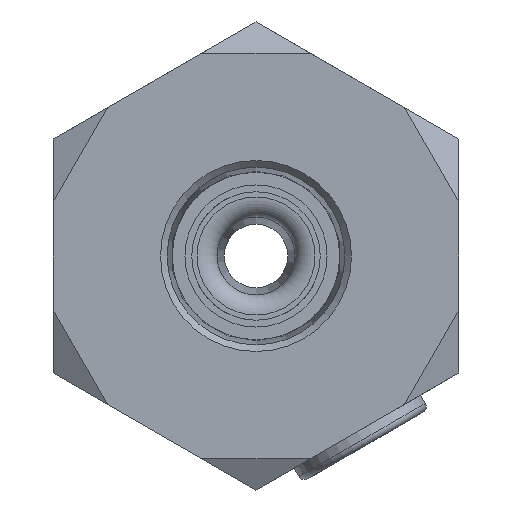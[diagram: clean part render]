
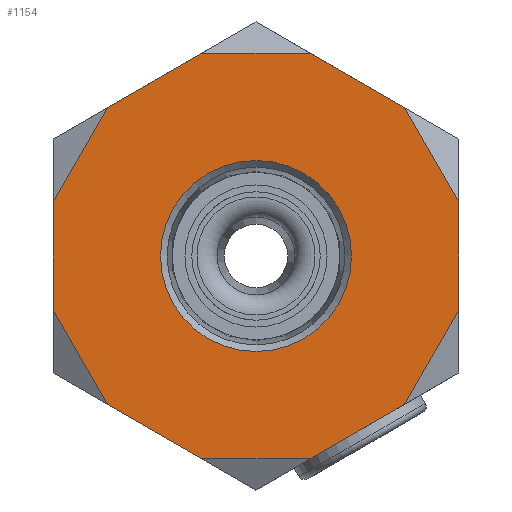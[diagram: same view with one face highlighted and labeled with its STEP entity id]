
A CAD part, left-side view. The second image highlights one B-rep face of the part: STEP entity #1154.
In plain terms, the highlighted planar face has unit normal (-1, 0, 0).
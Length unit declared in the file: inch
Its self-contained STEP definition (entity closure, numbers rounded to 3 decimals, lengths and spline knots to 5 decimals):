
#9 = VECTOR ( 'NONE', #1873, 39.37008 ) ;
#12 = VECTOR ( 'NONE', #1640, 39.37008 ) ;
#13 = ORIENTED_EDGE ( 'NONE', *, *, #1474, .T. ) ;
#14 = DIRECTION ( 'NONE',  ( 0., -0.5, 0.866 ) ) ;
#20 = VERTEX_POINT ( 'NONE', #1760 ) ;
#30 = CARTESIAN_POINT ( 'NONE',  ( 0., 0., -0.29464 ) ) ;
#57 = FACE_OUTER_BOUND ( 'NONE', #813, .T. ) ;
#71 = CARTESIAN_POINT ( 'NONE',  ( 0., 0., 0. ) ) ;
#125 = CARTESIAN_POINT ( 'NONE',  ( 0., -0.625, 0.36084 ) ) ;
#128 = VECTOR ( 'NONE', #544, 39.37008 ) ;
#145 = VERTEX_POINT ( 'NONE', #1623 ) ;
#152 = CARTESIAN_POINT ( 'NONE',  ( 0., 0., -0.625 ) ) ;
#158 = DIRECTION ( 'NONE',  ( 0., 0.866, -0.5 ) ) ;
#163 = CARTESIAN_POINT ( 'NONE',  ( 0., 0.625, 0.36084 ) ) ;
#169 = VERTEX_POINT ( 'NONE', #979 ) ;
#216 = CARTESIAN_POINT ( 'NONE',  ( 0., 0., -0.72169 ) ) ;
#266 = VERTEX_POINT ( 'NONE', #1682 ) ;
#274 = EDGE_CURVE ( 'NONE', #720, #1895, #1125, .T. ) ;
#290 = CARTESIAN_POINT ( 'NONE',  ( 0., 0.45753, -0.45753 ) ) ;
#371 = LINE ( 'NONE', #1305, #1045 ) ;
#383 = DIRECTION ( 'NONE',  ( 0., 0.5, -0.866 ) ) ;
#386 = AXIS2_PLACEMENT_3D ( 'NONE', #716, #1888, #1204 ) ;
#394 = VERTEX_POINT ( 'NONE', #533 ) ;
#409 = VERTEX_POINT ( 'NONE', #876 ) ;
#477 = LINE ( 'NONE', #1562, #1473 ) ;
#527 = LINE ( 'NONE', #163, #128 ) ;
#532 = LINE ( 'NONE', #1362, #12 ) ;
#533 = CARTESIAN_POINT ( 'NONE',  ( 0., 0.45753, 0.45753 ) ) ;
#544 = DIRECTION ( 'NONE',  ( 0., -0.866, 0.5 ) ) ;
#562 = LINE ( 'NONE', #1564, #1265 ) ;
#593 = ORIENTED_EDGE ( 'NONE', *, *, #2117, .F. ) ;
#629 = VERTEX_POINT ( 'NONE', #30 ) ;
#639 = FACE_BOUND ( 'NONE', #2120, .T. ) ;
#649 = VERTEX_POINT ( 'NONE', #1291 ) ;
#678 = CARTESIAN_POINT ( 'NONE',  ( 0., -0.16747, -0.625 ) ) ;
#680 = LINE ( 'NONE', #1829, #2134 ) ;
#716 = CARTESIAN_POINT ( 'NONE',  ( 0., 0., 0. ) ) ;
#719 = EDGE_CURVE ( 'NONE', #145, #794, #2142, .T. ) ;
#720 = VERTEX_POINT ( 'NONE', #1324 ) ;
#742 = EDGE_CURVE ( 'NONE', #409, #169, #867, .T. ) ;
#753 = VERTEX_POINT ( 'NONE', #1513 ) ;
#786 = LINE ( 'NONE', #1052, #9 ) ;
#794 = VERTEX_POINT ( 'NONE', #678 ) ;
#813 = EDGE_LOOP ( 'NONE', ( #1105, #1649, #1302, #1940, #593, #13, #2026, #1520, #1234, #1299, #814, #1498 ) ) ;
#814 = ORIENTED_EDGE ( 'NONE', *, *, #1756, .F. ) ;
#826 = EDGE_CURVE ( 'NONE', #720, #1006, #532, .T. ) ;
#837 = VECTOR ( 'NONE', #1354, 39.37008 ) ;
#867 = LINE ( 'NONE', #125, #837 ) ;
#876 = CARTESIAN_POINT ( 'NONE',  ( 0., -0.625, 0.16747 ) ) ;
#888 = EDGE_CURVE ( 'NONE', #266, #753, #1856, .T. ) ;
#940 = CARTESIAN_POINT ( 'NONE',  ( 0., 0.625, 0.16747 ) ) ;
#967 = VECTOR ( 'NONE', #1546, 39.37008 ) ;
#978 = DIRECTION ( 'NONE',  ( 0., -1., 0. ) ) ;
#979 = CARTESIAN_POINT ( 'NONE',  ( 0., -0.625, -0.16747 ) ) ;
#1006 = VERTEX_POINT ( 'NONE', #290 ) ;
#1045 = VECTOR ( 'NONE', #14, 39.37008 ) ;
#1052 = CARTESIAN_POINT ( 'NONE',  ( 0., 0., 0.625 ) ) ;
#1105 = ORIENTED_EDGE ( 'NONE', *, *, #274, .F. ) ;
#1125 = LINE ( 'NONE', #1870, #967 ) ;
#1148 = EDGE_CURVE ( 'NONE', #394, #1895, #477, .T. ) ;
#1154 = ADVANCED_FACE ( 'NONE', ( #639, #57 ), #1719, .F. ) ;
#1178 = EDGE_CURVE ( 'NONE', #266, #649, #786, .T. ) ;
#1179 = EDGE_CURVE ( 'NONE', #629, #629, #2009, .T. ) ;
#1204 = DIRECTION ( 'NONE',  ( 0., 0., -1. ) ) ;
#1234 = ORIENTED_EDGE ( 'NONE', *, *, #888, .F. ) ;
#1265 = VECTOR ( 'NONE', #1897, 39.37008 ) ;
#1291 = CARTESIAN_POINT ( 'NONE',  ( 0., 0.16747, 0.625 ) ) ;
#1299 = ORIENTED_EDGE ( 'NONE', *, *, #1178, .T. ) ;
#1302 = ORIENTED_EDGE ( 'NONE', *, *, #1464, .F. ) ;
#1305 = CARTESIAN_POINT ( 'NONE',  ( 0., -0.54127, -0.3125 ) ) ;
#1324 = CARTESIAN_POINT ( 'NONE',  ( 0., 0.625, -0.16747 ) ) ;
#1354 = DIRECTION ( 'NONE',  ( 0., 0., -1. ) ) ;
#1362 = CARTESIAN_POINT ( 'NONE',  ( 0., 0.54127, -0.3125 ) ) ;
#1403 = DIRECTION ( 'NONE',  ( 1., 0., 0. ) ) ;
#1411 = DIRECTION ( 'NONE',  ( 0., 0.866, 0.5 ) ) ;
#1427 = VECTOR ( 'NONE', #1840, 39.37008 ) ;
#1442 = LINE ( 'NONE', #216, #1580 ) ;
#1451 = EDGE_CURVE ( 'NONE', #409, #753, #562, .T. ) ;
#1464 = EDGE_CURVE ( 'NONE', #145, #1006, #1442, .T. ) ;
#1470 = AXIS2_PLACEMENT_3D ( 'NONE', #71, #1403, #1570 ) ;
#1473 = VECTOR ( 'NONE', #383, 39.37008 ) ;
#1474 = EDGE_CURVE ( 'NONE', #20, #169, #371, .T. ) ;
#1498 = ORIENTED_EDGE ( 'NONE', *, *, #1148, .T. ) ;
#1513 = CARTESIAN_POINT ( 'NONE',  ( 0., -0.45753, 0.45753 ) ) ;
#1520 = ORIENTED_EDGE ( 'NONE', *, *, #1451, .T. ) ;
#1546 = DIRECTION ( 'NONE',  ( 0., 0., 1. ) ) ;
#1562 = CARTESIAN_POINT ( 'NONE',  ( 0., 0.54127, 0.3125 ) ) ;
#1564 = CARTESIAN_POINT ( 'NONE',  ( 0., -0.54127, 0.3125 ) ) ;
#1570 = DIRECTION ( 'NONE',  ( 0., 0., -1. ) ) ;
#1580 = VECTOR ( 'NONE', #1411, 39.37008 ) ;
#1623 = CARTESIAN_POINT ( 'NONE',  ( 0., 0.16747, -0.625 ) ) ;
#1640 = DIRECTION ( 'NONE',  ( 0., -0.5, -0.866 ) ) ;
#1649 = ORIENTED_EDGE ( 'NONE', *, *, #826, .T. ) ;
#1682 = CARTESIAN_POINT ( 'NONE',  ( 0., -0.16747, 0.625 ) ) ;
#1719 = PLANE ( 'NONE',  #386 ) ;
#1724 = CARTESIAN_POINT ( 'NONE',  ( 0., 0., 0.72169 ) ) ;
#1756 = EDGE_CURVE ( 'NONE', #394, #649, #527, .T. ) ;
#1760 = CARTESIAN_POINT ( 'NONE',  ( 0., -0.45753, -0.45753 ) ) ;
#1785 = VECTOR ( 'NONE', #978, 39.37008 ) ;
#1829 = CARTESIAN_POINT ( 'NONE',  ( 0., -0.625, -0.36084 ) ) ;
#1840 = DIRECTION ( 'NONE',  ( 0., -0.866, -0.5 ) ) ;
#1856 = LINE ( 'NONE', #1724, #1427 ) ;
#1857 = ORIENTED_EDGE ( 'NONE', *, *, #1179, .T. ) ;
#1870 = CARTESIAN_POINT ( 'NONE',  ( 0., 0.625, -0.36084 ) ) ;
#1873 = DIRECTION ( 'NONE',  ( 0., 1., 0. ) ) ;
#1888 = DIRECTION ( 'NONE',  ( 1., 0., 0. ) ) ;
#1895 = VERTEX_POINT ( 'NONE', #940 ) ;
#1897 = DIRECTION ( 'NONE',  ( 0., 0.5, 0.866 ) ) ;
#1940 = ORIENTED_EDGE ( 'NONE', *, *, #719, .T. ) ;
#2009 = CIRCLE ( 'NONE', #1470, 0.29464 ) ;
#2026 = ORIENTED_EDGE ( 'NONE', *, *, #742, .F. ) ;
#2117 = EDGE_CURVE ( 'NONE', #20, #794, #680, .T. ) ;
#2120 = EDGE_LOOP ( 'NONE', ( #1857 ) ) ;
#2134 = VECTOR ( 'NONE', #158, 39.37008 ) ;
#2142 = LINE ( 'NONE', #152, #1785 ) ;
